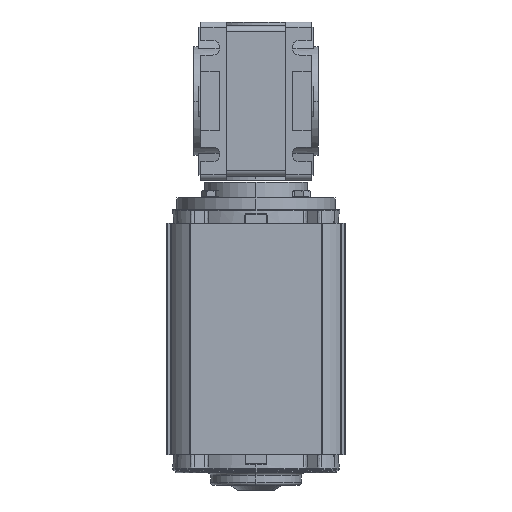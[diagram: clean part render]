
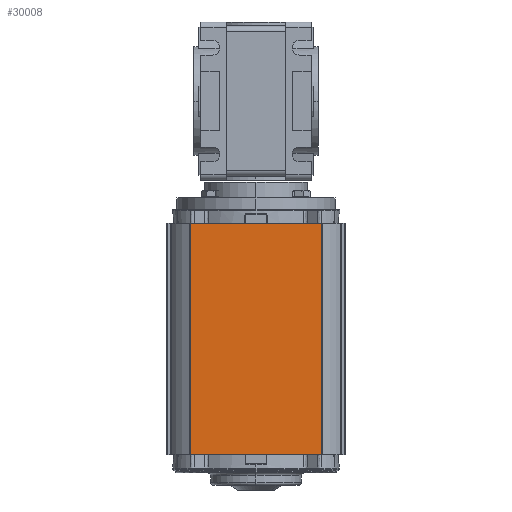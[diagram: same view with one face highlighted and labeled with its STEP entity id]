
A CAD part, front view. The second image highlights one B-rep face of the part: STEP entity #30008.
In plain terms, the highlighted planar face has unit normal (0, -1, 0).
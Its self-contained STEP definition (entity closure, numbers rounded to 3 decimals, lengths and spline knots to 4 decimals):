
#14133 = CARTESIAN_POINT ( 'NONE',  ( 1.325, -1.7765, -0.3042 ) ) ;
#14134 = LINE ( 'NONE', #14133, #14199 ) ;
#14136 = DIRECTION ( 'NONE',  ( -1., 0., 0. ) ) ;
#14137 = VECTOR ( 'NONE', #14136, 39.3701 ) ;
#14138 = CARTESIAN_POINT ( 'NONE',  ( -1.7765, -1.7765, 4.3008 ) ) ;
#14139 = LINE ( 'NONE', #14138, #14137 ) ;
#14140 = CARTESIAN_POINT ( 'NONE',  ( 1.305, -1.7765, 4.3008 ) ) ;
#14173 = CARTESIAN_POINT ( 'NONE',  ( -1.305, -1.7765, 4.3008 ) ) ;
#14198 = DIRECTION ( 'NONE',  ( 1., 0., 0. ) ) ;
#14199 = VECTOR ( 'NONE', #14198, 39.3701 ) ;
#14216 = CARTESIAN_POINT ( 'NONE',  ( 1.305, -1.7765, -0.3042 ) ) ;
#14217 = DIRECTION ( 'NONE',  ( 0., 0., 1. ) ) ;
#14218 = VECTOR ( 'NONE', #14217, 39.3701 ) ;
#14219 = CARTESIAN_POINT ( 'NONE',  ( 1.305, -1.7765, 4.3838 ) ) ;
#14220 = DIRECTION ( 'NONE',  ( 0., 0., 1. ) ) ;
#14221 = DIRECTION ( 'NONE',  ( 0., 1., 0. ) ) ;
#14222 = CARTESIAN_POINT ( 'NONE',  ( 1.325, -1.7765, 4.3838 ) ) ;
#14223 = AXIS2_PLACEMENT_3D ( 'NONE', #14222, #14221, #14220 ) ;
#14224 = PLANE ( 'NONE',  #14223 ) ;
#14225 = LINE ( 'NONE', #14219, #14218 ) ;
#14226 = FACE_OUTER_BOUND ( 'NONE', #30009, .T. ) ;
#14227 = DIRECTION ( 'NONE',  ( 0., 0., -1. ) ) ;
#14228 = VECTOR ( 'NONE', #14227, 39.3701 ) ;
#14229 = CARTESIAN_POINT ( 'NONE',  ( -1.305, -1.7765, 4.3838 ) ) ;
#14230 = LINE ( 'NONE', #14229, #14228 ) ;
#14231 = CARTESIAN_POINT ( 'NONE',  ( -1.305, -1.7765, -0.3042 ) ) ;
#29965 = VERTEX_POINT ( 'NONE', #14140 ) ;
#29968 = ORIENTED_EDGE ( 'NONE', *, *, #29970, .T. ) ;
#29970 = EDGE_CURVE ( 'NONE', #29965, #29996, #14139, .T. ) ;
#29971 = ORIENTED_EDGE ( 'NONE', *, *, #30006, .T. ) ;
#29972 = ORIENTED_EDGE ( 'NONE', *, *, #29973, .T. ) ;
#29973 = EDGE_CURVE ( 'NONE', #30004, #30012, #14134, .T. ) ;
#29996 = VERTEX_POINT ( 'NONE', #14173 ) ;
#30004 = VERTEX_POINT ( 'NONE', #14231 ) ;
#30006 = EDGE_CURVE ( 'NONE', #29996, #30004, #14230, .T. ) ;
#30008 = ADVANCED_FACE ( 'NONE', ( #14226 ), #14224, .F. ) ;
#30009 = EDGE_LOOP ( 'NONE', ( #30010, #29968, #29971, #29972 ) ) ;
#30010 = ORIENTED_EDGE ( 'NONE', *, *, #30011, .T. ) ;
#30011 = EDGE_CURVE ( 'NONE', #30012, #29965, #14225, .T. ) ;
#30012 = VERTEX_POINT ( 'NONE', #14216 ) ;
